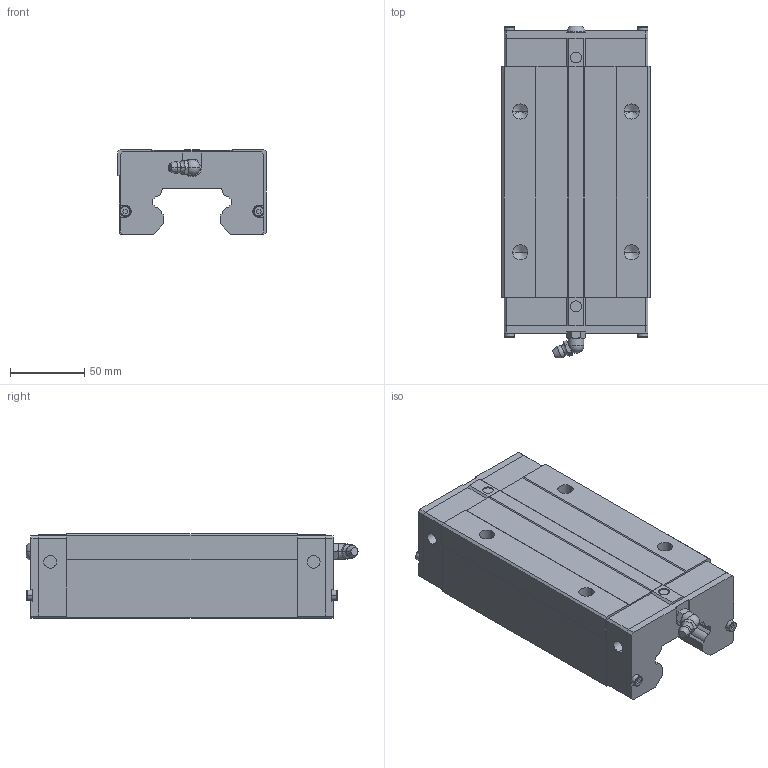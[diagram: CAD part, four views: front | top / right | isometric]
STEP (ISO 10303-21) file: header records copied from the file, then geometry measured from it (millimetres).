
FILE_DESCRIPTION(('no description'),'unknown implementation level');
FILE_NAME('HGL55HA_Z0_H_SS_12.stp',' ',('HIWIN GmbH'),('CADClick - KiM GmbH - www.kimweb.de'),'unknown preprocess','ACIS','unknown authorization');
FILE_SCHEMA(('automotive_design'));
Length unit declared in the file: millimetre
Products named in the file (1): HGL55HA Z0 H SS
Bounding box: 100 x 223.93 x 57 mm (x, y, z)
Volume: 845088.5 mm3; surface area: 91528.3 mm2
Topology: 1 solids, 6 shells, 293 faces, 757 edges, 479 vertices
Faces by surface type: plane 179, cylinder 60, torus 30, cone 22, sphere 2
Entity records: 17472 total; most frequent: CARTESIAN_POINT 1820, STYLED_ITEM 1520, PRESENTATION_STYLE_ASSIGNMENT 1520, COLOUR_RGB 1520, ORIENTED_EDGE 1494, DIRECTION 1486, EDGE_CURVE 747, CURVE_STYLE 747
